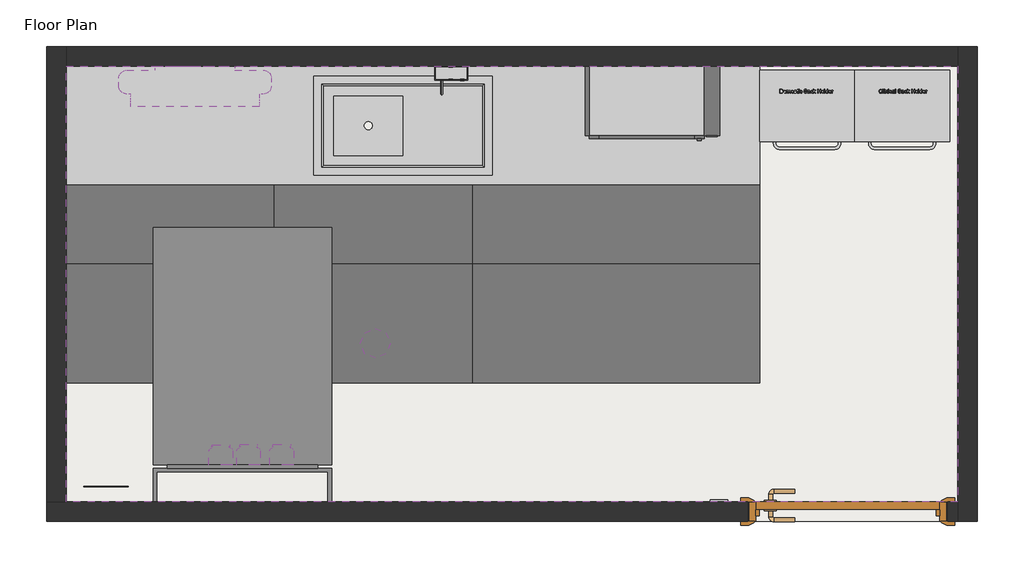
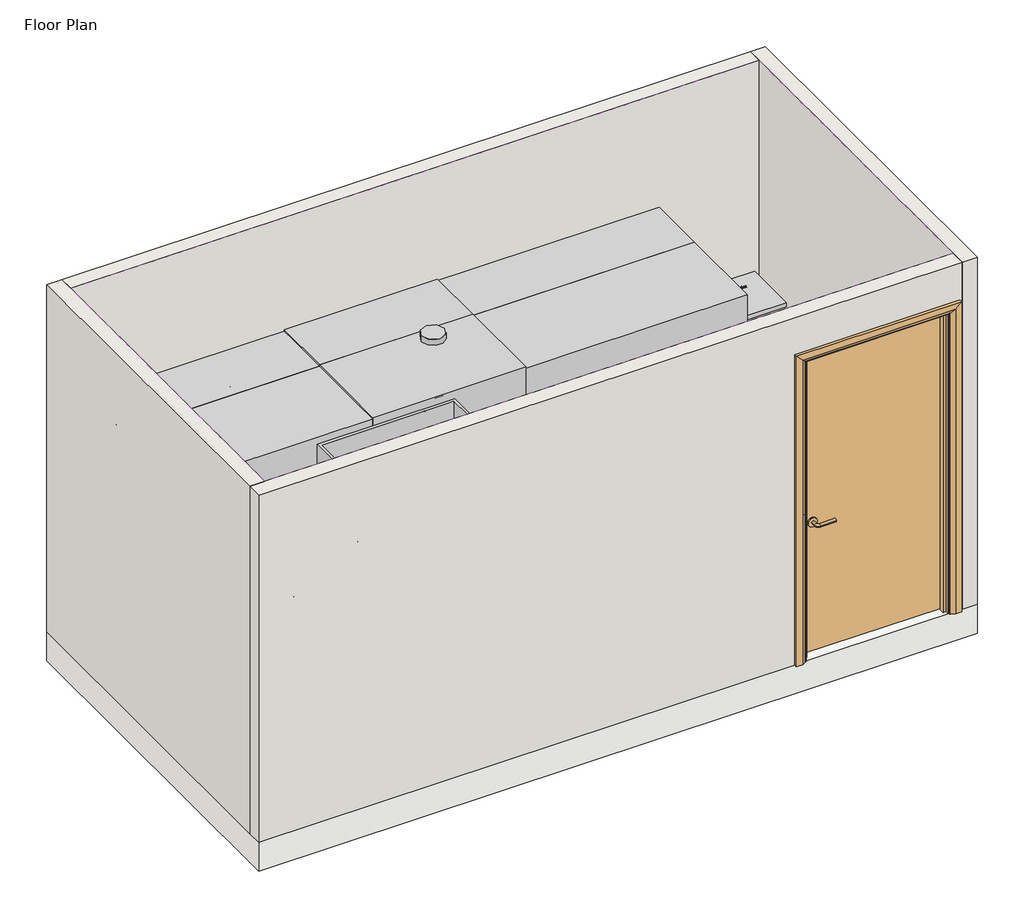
# One storey, incomplete: 9 proxies, 6 furniture elements, 4 walls, 3 flow terminals, 1 covering, 1 door, 1 slab.
"""IFC4 building model written with IfcOpenShell, lengths in millimetres."""

from ifc_helpers import new_model, si_unit, frame, origin, origin_with_axes, place, context, project, spatial, polyline, outline, extrude, faceted_brep, transform, mapped, element, save
from components import generic_models_abbf64a3, generic_models_a45729b0, generic_models_63e8a5fc, generic_models_43ed5143, generic_models_e545678d, generic_models_0cca4b6f, generic_models_3f6ca24f, bimhealth_electrical_light_switch_v1_type_1_b5e59f8a, bimhealth_electrical_smoke_detector_v1_bimhealth_electrical_fe9fcb6c, door_1010x2110mm_f9eb5fde, flow_terminal_004a381b, flow_terminal_30861e1c, flow_terminal_1070fcb0, furniture_3d3374f5, furniture_385ba860, furniture_166ce8d1, furniture_26d36cfe, furniture_197fe330, furniture_610823a6

model = new_model("IFC4")

# Units and contexts
model_context = context("Model", 3, world=origin())
ifc_project = project(units=[si_unit("LENGTHUNIT", "METRE", prefix="MILLI")], contexts=[model_context])

# Site, building, storey
site = spatial("IfcSite", under=ifc_project)
building = spatial("IfcBuilding", under=site)
storey = spatial("IfcBuildingStorey", under=building, Name="Floor Plan", Elevation=0.0)

# Proxies
placement = place(None, origin())
generic_models_shape = generic_models_abbf64a3(model_context)
element("IfcBuildingElementProxy", 1, Name="BIMHealth-Hand_Cream_Dispenser-LOD2A-v1 : BIMHealth-Hand_Cream_Dispenser-LOD2A-v1", ObjectType="BIMHealth-Hand_Cream_Dispenser-LOD2A-v1 : BIMHealth-Hand_Cream_Dispenser-LOD2A-v1", at=placement, inside=storey, context=model_context, shape_type="MappedRepresentation", body=[
    mapped(generic_models_shape, transform((885.0, 1281.0, 150.0), x_axis=(-1.0000000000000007, 0.0, 0.0), y_axis=(0.0, -1.0000000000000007, 0.0), z_axis=(0.0, 0.0, 1.0))),
])
generic_models_2_shape = generic_models_a45729b0(model_context)
element("IfcBuildingElementProxy", 2, Name="BIMHealth-Dishwasher-LOD2A-v1 : BIMHealth-Dishwasher-LOD2A-v1", ObjectType="BIMHealth-Dishwasher-LOD2A-v1 : BIMHealth-Dishwasher-LOD2A-v1", at=placement, inside=storey, context=model_context, shape_type="MappedRepresentation", body=[
    mapped(generic_models_2_shape, transform((-95.0, 3295.0, 0.0), x_axis=(1.0, 0.0, 0.0), y_axis=(0.0, 1.0, 0.0), z_axis=(0.0, 0.0, 1.0))),
])
generic_models_3_shape = generic_models_63e8a5fc(model_context)
element("IfcBuildingElementProxy", 3, Name="BIMHealth-Kitchen_worktop-LOD2A-v1 : BIMHealth-Kitchen_worktop-LOD2A-v1", ObjectType="BIMHealth-Kitchen_worktop-LOD2A-v1 : BIMHealth-Kitchen_worktop-LOD2A-v1", at=placement, inside=storey, context=model_context, shape_type="MappedRepresentation", body=[
    mapped(generic_models_3_shape, transform((-95.0, 3295.0, 0.0), x_axis=(1.0, 0.0, 0.0), y_axis=(0.0, 1.0, 0.0), z_axis=(0.0, 0.0, 1.0))),
])
generic_models_4_shape = generic_models_43ed5143(model_context)
element("IfcBuildingElementProxy", 4, Name="BIMHealth-Fridge-LOD2A-v1 : BIMHealth-Fridge-LOD2A-v1", ObjectType="BIMHealth-Fridge-LOD2A-v1 : BIMHealth-Fridge-LOD2A-v1", at=placement, inside=storey, context=model_context, shape_type="MappedRepresentation", body=[
    mapped(generic_models_4_shape, transform((2755.0, 3295.0, 0.0), x_axis=(1.0, 0.0, 0.0), y_axis=(0.0, 1.0, 0.0), z_axis=(0.0, 0.0, 1.0))),
])
generic_models_5_shape = generic_models_e545678d(model_context)
element("IfcBuildingElementProxy", 5, Name="BIMHealth-Microwave-LOD2A-v1 : BIMHealth-Microwave-LOD2A-v1", ObjectType="BIMHealth-Microwave-LOD2A-v1 : BIMHealth-Microwave-LOD2A-v1", at=placement, inside=storey, context=model_context, shape_type="MappedRepresentation", body=[
    mapped(generic_models_5_shape, transform((2525.0, 3295.0, 900.0), x_axis=(1.0, 0.0, 0.0), y_axis=(0.0, 1.0, 0.0), z_axis=(0.0, 0.0, 1.0))),
])
generic_models_6_shape = generic_models_0cca4b6f(model_context)
element("IfcBuildingElementProxy", 6, Name="BIMHealth-Water_Boiler-LOD2A-v1 : BIMHealth-Water_Boiler-LOD2A-v1", ObjectType="BIMHealth-Water_Boiler-LOD2A-v1 : BIMHealth-Water_Boiler-LOD2A-v1", at=placement, inside=storey, context=model_context, shape_type="MappedRepresentation", body=[
    mapped(generic_models_6_shape, transform((1845.0, 3295.0, 0.0), x_axis=(1.0, 0.0, 0.0), y_axis=(0.0, 1.0, 0.0), z_axis=(0.0, 0.0, 1.0))),
])
generic_models_7_shape = generic_models_3f6ca24f(model_context)
element("IfcBuildingElementProxy", 7, Name="BIMHealth-Paper_Towel_Roll-LOD2A-v1 : BIMHealth-Paper_Towel_Roll-LOD2A-v1", ObjectType="BIMHealth-Paper_Towel_Roll-LOD2A-v1 : BIMHealth-Paper_Towel_Roll-LOD2A-v1", at=placement, inside=storey, context=model_context, shape_type="MappedRepresentation", body=[
    mapped(generic_models_7_shape, transform((555.0, 3265.0, 200.0), x_axis=(1.0000000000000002, 0.0, 0.0), y_axis=(0.0, 1.0000000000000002, 0.0), z_axis=(0.0, 0.0, 1.0))),
])
bimhealth_electrical_light_switch_v1_type_1_shape = bimhealth_electrical_light_switch_v1_type_1_b5e59f8a(model_context)
element("IfcBuildingElementProxy", 8, Name="BIMHealth-Electrical-Light_Switch-v1 : Type 1", ObjectType="BIMHealth-Electrical-Light_Switch-v1 : Type 1", at=placement, inside=storey, context=model_context, shape_type="MappedRepresentation", body=[
    mapped(bimhealth_electrical_light_switch_v1_type_1_shape, transform((3030.0, 1045.0, -60.0), x_axis=(1.0, 0.0, 0.0), y_axis=(0.0, 1.0, 0.0), z_axis=(0.0, 0.0, 1.0))),
])
bimhealth_electrical_smoke_detector_v1_bimhealth_electrical_shape = bimhealth_electrical_smoke_detector_v1_bimhealth_electrical_fe9fcb6c(model_context)
element("IfcBuildingElementProxy", 9, Name="BIMHealth-Electrical-Smoke_Detector-v1 : BIMHealth-Electrical-Smoke_Detector-v1", ObjectType="BIMHealth-Electrical-Smoke_Detector-v1 : BIMHealth-Electrical-Smoke_Detector-v1", at=placement, inside=storey, context=model_context, shape_type="MappedRepresentation", body=[
    mapped(bimhealth_electrical_smoke_detector_v1_bimhealth_electrical_shape, transform((1465.0, 1895.0, -38.4), x_axis=(1.0, 0.0, 0.0), y_axis=(0.0, 1.0, 0.0), z_axis=(0.0, 0.0, 1.0))),
])

# Covering
element("IfcCovering", 10, ObjectType="BIMHealth - Generic Ceiling", at=placement, inside=storey, context=model_context, shape_type="SweptSolid", body=[
    extrude(outline(polyline([(4405.0, 3295.0), (4405.0, 1095.0), (-95.0, 1095.0), (-95.0, 3295.0), (4405.0, 3295.0)])), frame((0.0, 0.0, 2400.0), z_axis=(0.0, 0.0, 1.0), x_axis=(1.0, 0.0, 0.0)), (0.0, 0.0, 1.0), 52.0),
])

# Door
door_1010x2110mm_shape = door_1010x2110mm_f9eb5fde(model_context)
element("IfcDoor", 11, ObjectType="BIMHealth-Single_Door-LOD2A-v1 : 1010x2110mm", at=placement, inside=storey, context=model_context, shape_type="MappedRepresentation", body=[
    mapped(door_1010x2110mm_shape, transform((3850.0, 1045.0, 0.0), x_axis=(1.0, 0.0, 0.0), y_axis=(0.0, 1.0, 0.0), z_axis=(0.0, 0.0, 1.0))),
])

# Flow terminals
flow_terminal_shape = flow_terminal_004a381b(model_context)
element("IfcFlowTerminal", 12, ObjectType="BIMHealth-Taps_IPS-LOD2A-v1 : BIMHealth-Taps_IPS-LOD2A-v1", at=placement, inside=storey, context=model_context, shape_type="MappedRepresentation", body=[
    mapped(flow_terminal_shape, transform((901.3959434, 1339.1543621, 1022.0), x_axis=(-1.0000000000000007, 0.0, 0.0), y_axis=(0.0, -1.0000000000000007, 0.0), z_axis=(0.0, 0.0, 1.0))),
])
flow_terminal_2_shape = flow_terminal_30861e1c(model_context)
element("IfcFlowTerminal", 13, ObjectType="BIMHealth-Wash_basin-LOD2A-v1 : BIMHealth-Wash_basin-LOD2A-v1", at=placement, inside=storey, context=model_context, shape_type="MappedRepresentation", body=[
    mapped(flow_terminal_2_shape, transform((1051.927572, 1281.0, 500.0), x_axis=(-1.0000000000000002, 0.0, 0.0), y_axis=(0.0, -1.0000000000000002, 0.0), z_axis=(0.0, 0.0, 1.0))),
])
flow_terminal_3_shape = flow_terminal_1070fcb0(model_context)
element("IfcFlowTerminal", 14, ObjectType="BIMHealth-Stainless_Steel_Sink_500x900mm-LOD2A-v1 : BIMHealth-Stainless_Steel_Sink_500x900mm-LOD2A-v1", at=placement, inside=storey, context=model_context, shape_type="MappedRepresentation", body=[
    mapped(flow_terminal_3_shape, transform((1154.6744807, 3245.0, 10.0), x_axis=(1.0, 0.0, 0.0), y_axis=(0.0, 1.0, 0.0), z_axis=(0.0, 0.0, 1.0))),
])

# Furniture
furniture_shape = furniture_3d3374f5(model_context)
element("IfcFurniture", 15, ObjectType="BIMHealth-Washstation-LOD2A-v1 : BIMHealth-Washstation-LOD2A-v1", at=placement, inside=storey, context=model_context, shape_type="MappedRepresentation", body=[
    mapped(furniture_shape, transform((343.7824953, 1095.0, 0.0), x_axis=(-1.0000000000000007, 0.0, 0.0), y_axis=(0.0, -1.0000000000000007, 0.0), z_axis=(0.0, 0.0, 1.0))),
])
furniture_2_shape = furniture_385ba860(model_context)
element("IfcFurniture", 16, ObjectType="BIMHealth-Alcohol_gel_dispenser-LOD2A-v1 : BIMHealth-Alcohol_gel_dispenser-LOD2A-v1", at=placement, inside=storey, context=model_context, shape_type="MappedRepresentation", body=[
    mapped(furniture_2_shape, transform((745.0, 1281.0, 150.0), x_axis=(-1.0000000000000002, 0.0, 0.0), y_axis=(0.0, -1.0000000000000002, 0.0), z_axis=(0.0, 0.0, 1.0))),
])
furniture_3_shape = furniture_166ce8d1(model_context)
element("IfcFurniture", 17, ObjectType="BIMHealth-Paper_Towel_Dispenser-LOD2A-v1 : BIMHealth-Paper_Towel_Dispenser-LOD2A-v1", at=placement, inside=storey, context=model_context, shape_type="MappedRepresentation", body=[
    mapped(furniture_3_shape, transform((245.0, 1095.0, 20.0), x_axis=(-1.0000000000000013, 0.0, 0.0), y_axis=(0.0, -1.0000000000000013, 0.0), z_axis=(0.0, 0.0, 1.0))),
])
furniture_4_shape = furniture_26d36cfe(model_context)
element("IfcFurniture", 18, ObjectType="BIMHealth-Soap_Dispenser-LOD2A-v1 : BIMHealth-Soap_Dispenser-LOD2A-v1", at=placement, inside=storey, context=model_context, shape_type="MappedRepresentation", body=[
    mapped(furniture_4_shape, transform((1051.927572, 1281.0, 150.0), x_axis=(-1.0000000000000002, 0.0, 0.0), y_axis=(0.0, -1.0000000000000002, 0.0), z_axis=(0.0, 0.0, 1.0))),
])
furniture_5_shape = furniture_197fe330(model_context)
element("IfcFurniture", 19, ObjectType="BIMHealth-Sack_Holder_Domestic-LOD2A-v1 : BIMHealth-Sack_Holder_Domestic-LOD2A-v1", at=placement, inside=storey, context=model_context, shape_type="MappedRepresentation", body=[
    mapped(furniture_5_shape, transform((3425.0, 3255.0, 0.0), x_axis=(1.0000000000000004, 0.0, 0.0), y_axis=(0.0, 1.0000000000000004, 0.0), z_axis=(0.0, 0.0, 1.0))),
])
furniture_6_shape = furniture_610823a6(model_context)
element("IfcFurniture", 20, ObjectType="BIMHealth-Sack_Holder_Clinical-LOD2A-v1 : BIMHealth-Sack_Holder_Clinical-LOD2A-v1", at=placement, inside=storey, context=model_context, shape_type="MappedRepresentation", body=[
    mapped(furniture_6_shape, transform((3905.0, 3255.0, 0.0), x_axis=(1.0000000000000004, 0.0, 0.0), y_axis=(0.0, 1.0000000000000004, 0.0), z_axis=(0.0, 0.0, 1.0))),
])

# Slab
element("IfcSlab", 21, ObjectType="BIMHealth - Generic Floor", at=placement, inside=storey, context=model_context, shape_type="SweptSolid", body=[
    extrude(outline(polyline([(4505.0, 3395.0), (4505.0, 995.0), (-195.0, 995.0), (-195.0, 3395.0), (4505.0, 3395.0)])), frame((0.0, 0.0, -200.0), z_axis=(0.0, 0.0, 1.0), x_axis=(1.0, 0.0, 0.0)), (0.0, 0.0, 1.0), 200.0),
])

# Walls
element("IfcWall", 22, ObjectType="BIMHealth - Generic Wall", at=placement, inside=storey, context=model_context, shape_type="Brep", body=[
    faceted_brep([(4405.0, 3395.0, 0.0), (4405.0, 3295.0, 0.0), (4405.0, 1095.0, 0.0), (4405.0, 995.0, 0.0), (4405.0, 995.0, 2400.0), (4405.0, 1095.0, 2400.0), (4405.0, 3295.0, 2400.0), (4405.0, 3395.0, 2400.0), (4505.0, 3395.0, 0.0), (4505.0, 3395.0, 2400.0), (4505.0, 995.0, 2400.0), (4505.0, 995.0, 0.0)], [[[0, 1, 2, 3, 4, 5, 6, 7]], [[8, 9, 10, 11]], [[3, 2, 1, 0, 8, 11]], [[7, 6, 5, 4, 10, 9]], [[4, 3, 11, 10]], [[0, 7, 9, 8]]]),
])
element("IfcWall", 23, ObjectType="BIMHealth - Generic Wall", at=placement, inside=storey, context=model_context, shape_type="Brep", body=[
    faceted_brep([(-195.0, 1095.0, 2400.0), (-95.0, 1095.0, 2400.0), (4405.0, 1095.0, 2400.0), (4405.0, 1095.0, 0.0), (4355.0, 1095.0, 0.0), (4355.0, 1095.0, 2110.0), (3345.0, 1095.0, 2110.0), (3345.0, 1095.0, 0.0), (-95.0, 1095.0, 0.0), (-195.0, 1095.0, 0.0), (4405.0, 995.0, 2400.0), (-195.0, 995.0, 2400.0), (-195.0, 995.0, 0.0), (3345.0, 995.0, 0.0), (3345.0, 995.0, 2110.0), (4355.0, 995.0, 2110.0), (4355.0, 995.0, 0.0), (4405.0, 995.0, 0.0)], [[[0, 1, 2, 3, 4, 5, 6, 7, 8, 9]], [[10, 11, 12, 13, 14, 15, 16, 17]], [[3, 17, 16, 4]], [[12, 9, 8, 7, 13]], [[2, 1, 0, 11, 10]], [[3, 2, 10, 17]], [[0, 9, 12, 11]], [[15, 5, 4, 16]], [[5, 15, 14, 6]], [[6, 14, 13, 7]]]),
])
element("IfcWall", 24, ObjectType="BIMHealth - Generic Wall", at=placement, inside=storey, context=model_context, shape_type="Brep", body=[
    faceted_brep([(-95.0, 1095.0, 0.0), (-95.0, 3295.0, 0.0), (-95.0, 3395.0, 0.0), (-95.0, 3395.0, 2400.0), (-95.0, 3295.0, 2400.0), (-95.0, 1095.0, 2400.0), (-195.0, 1095.0, 0.0), (-195.0, 1095.0, 2400.0), (-195.0, 3395.0, 2400.0), (-195.0, 3395.0, 0.0)], [[[0, 1, 2, 3, 4, 5]], [[6, 7, 8, 9]], [[2, 1, 0, 6, 9]], [[5, 4, 3, 8, 7]], [[0, 5, 7, 6]], [[3, 2, 9, 8]]]),
])
element("IfcWall", 25, ObjectType="BIMHealth - Generic Wall", at=placement, inside=storey, context=model_context, shape_type="SweptSolid", body=[
    extrude(outline(polyline([(4405.0, 3295.0), (-95.0, 3295.0), (-95.0, 3395.0), (4405.0, 3395.0), (4405.0, 3295.0)])), origin_with_axes(), (0.0, 0.0, 1.0), 2400.0),
])

save(model, "model.ifc")
